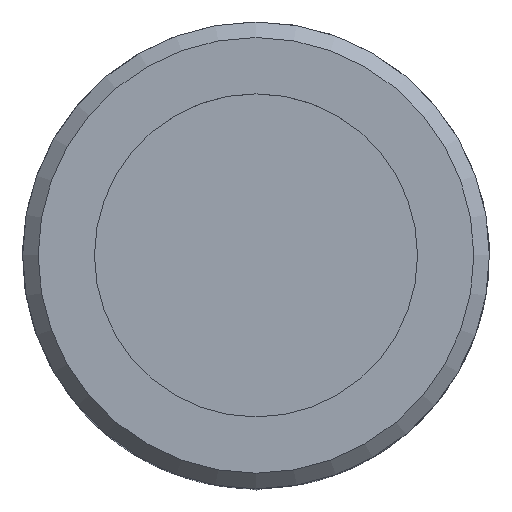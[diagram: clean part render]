
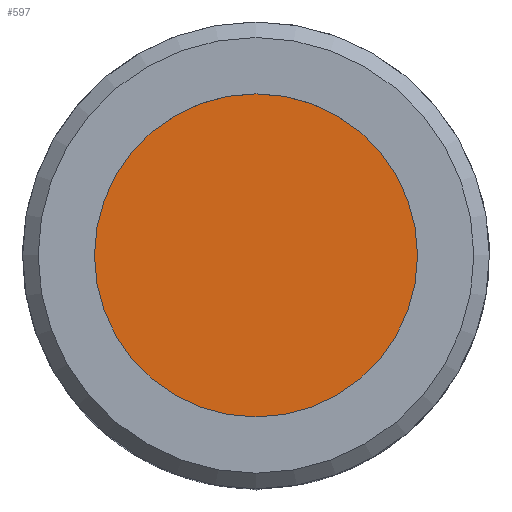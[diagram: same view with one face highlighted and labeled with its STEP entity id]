
A CAD part, top view. The second image highlights one B-rep face of the part: STEP entity #597.
In plain terms, the highlighted planar face has unit normal (0, 0, 1).
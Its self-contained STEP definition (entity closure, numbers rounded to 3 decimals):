
#597=ADVANCED_FACE('',(#646),#635,.F.);
#635=PLANE('',#1623);
#646=FACE_OUTER_BOUND('',#671,.T.);
#671=EDGE_LOOP('',(#739));
#739=ORIENTED_EDGE('',*,*,#1381,.F.);
#1172=VERTEX_POINT('',#1823);
#1381=EDGE_CURVE('',#1172,#1172,#1598,.T.);
#1598=CIRCLE('',#1622,20.763);
#1622=AXIS2_PLACEMENT_3D('',#1822,#1688,#1689);
#1623=AXIS2_PLACEMENT_3D('',#1824,#1690,#1691);
#1688=DIRECTION('',(0.,0.,-1.));
#1689=DIRECTION('',(0.,-1.,0.));
#1690=DIRECTION('',(0.,0.,-1.));
#1691=DIRECTION('',(0.,-1.,0.));
#1822=CARTESIAN_POINT('',(0.,0.,0.));
#1823=CARTESIAN_POINT('',(0.,-20.763,0.));
#1824=CARTESIAN_POINT('',(0.,0.,0.));
